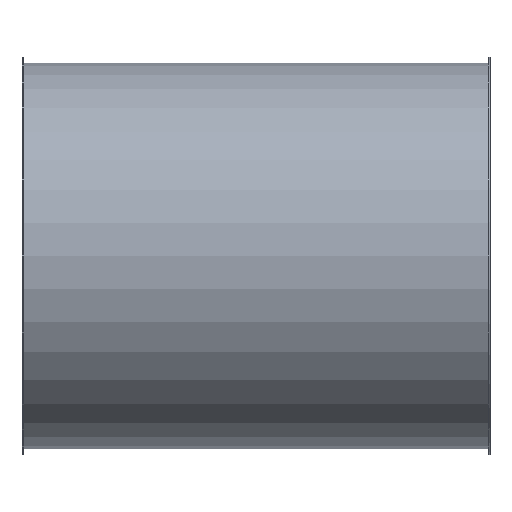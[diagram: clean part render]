
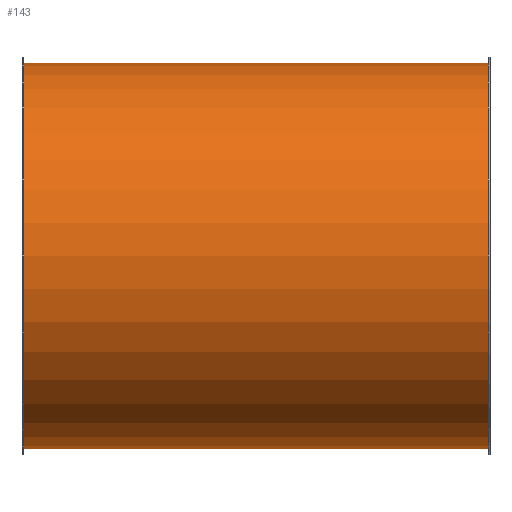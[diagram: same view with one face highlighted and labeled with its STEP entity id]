
A CAD part, front view. The second image highlights one B-rep face of the part: STEP entity #143.
In plain terms, the highlighted cylindrical face has radius 201 mm (diameter 402 mm), a full revolution.
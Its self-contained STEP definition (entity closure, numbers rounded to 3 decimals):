
#112=CARTESIAN_POINT('',(454.119,2.817,0.0));
#113=VERTEX_POINT('',#112);
#114=CARTESIAN_POINT('',(454.119,203.817,0.0));
#115=DIRECTION('',(-1.0,0.0,0.0));
#116=DIRECTION('',(0.0,-1.0,0.0));
#117=AXIS2_PLACEMENT_3D('',#114,#115,#116);
#118=CIRCLE('',#117,201.);
#119=EDGE_CURVE('',#113,#113,#118,.T.);
#124=CARTESIAN_POINT('',(212.119,203.817,0.0));
#125=DIRECTION('',(-1.0,0.,0.0));
#126=DIRECTION('',(0.0,-1.0,0.0));
#127=AXIS2_PLACEMENT_3D('',#124,#125,#126);
#128=CYLINDRICAL_SURFACE('',#127,201.);
#129=CARTESIAN_POINT('',(-29.881,2.817,0.0));
#130=VERTEX_POINT('',#129);
#131=CARTESIAN_POINT('',(-29.881,203.817,0.0));
#132=DIRECTION('',(-1.0,0.0,0.0));
#133=DIRECTION('',(0.0,-1.0,0.0));
#134=AXIS2_PLACEMENT_3D('',#131,#132,#133);
#135=CIRCLE('',#134,201.0);
#136=EDGE_CURVE('',#130,#130,#135,.T.);
#137=ORIENTED_EDGE('',*,*,#136,.F.);
#138=EDGE_LOOP('',(#137));
#139=FACE_OUTER_BOUND('',#138,.T.);
#140=ORIENTED_EDGE('',*,*,#119,.T.);
#141=EDGE_LOOP('',(#140));
#142=FACE_BOUND('',#141,.T.);
#143=ADVANCED_FACE('',(#139,#142),#128,.T.);
